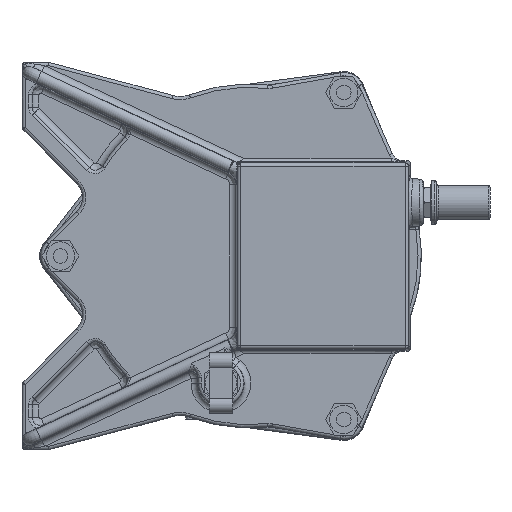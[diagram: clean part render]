
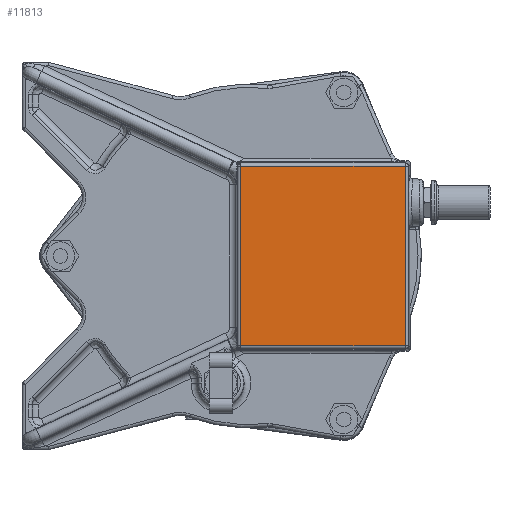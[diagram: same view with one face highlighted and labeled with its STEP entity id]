
A CAD part, front view. The second image highlights one B-rep face of the part: STEP entity #11813.
In plain terms, the highlighted planar face has unit normal (0, -1, 0).
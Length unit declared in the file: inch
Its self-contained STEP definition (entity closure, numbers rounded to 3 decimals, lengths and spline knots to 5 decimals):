
#431=DIRECTION('',(1.,0.,0.));
#432=VECTOR('',#431,3.07787);
#433=CARTESIAN_POINT('',(-0.35044,0.,2.00294));
#434=LINE('',#433,#432);
#3540=DIRECTION('',(0.,0.,-1.));
#3541=VECTOR('',#3540,3.35787);
#3542=CARTESIAN_POINT('',(-0.35044,0.,2.00294));
#3543=LINE('',#3542,#3541);
#3560=DIRECTION('',(0.,0.,1.));
#3561=VECTOR('',#3560,3.35787);
#3562=CARTESIAN_POINT('',(2.72744,0.,-1.35494));
#3563=LINE('',#3562,#3561);
#3605=DIRECTION('',(1.,0.,0.));
#3606=VECTOR('',#3605,3.07787);
#3607=CARTESIAN_POINT('',(-0.35044,0.,-1.35494));
#3608=LINE('',#3607,#3606);
#4763=CARTESIAN_POINT('',(-0.35044,0.,-1.35494));
#4764=CARTESIAN_POINT('',(2.72744,0.,-1.35494));
#4765=VERTEX_POINT('',#4763);
#4766=VERTEX_POINT('',#4764);
#4941=CARTESIAN_POINT('',(-0.35044,0.,2.00294));
#4942=CARTESIAN_POINT('',(2.72744,0.,2.00294));
#4943=VERTEX_POINT('',#4941);
#4944=VERTEX_POINT('',#4942);
#11800=CARTESIAN_POINT('',(-0.1865,0.,0.324));
#11801=DIRECTION('',(0.,-1.,0.));
#11802=DIRECTION('',(0.,0.,1.));
#11803=AXIS2_PLACEMENT_3D('',#11800,#11801,#11802);
#11804=PLANE('',#11803);
#11805=ORIENTED_EDGE('',*,*,#11782,.F.);
#11806=ORIENTED_EDGE('',*,*,#6069,.T.);
#11808=ORIENTED_EDGE('',*,*,#11807,.F.);
#11810=ORIENTED_EDGE('',*,*,#11809,.F.);
#11811=EDGE_LOOP('',(#11805,#11806,#11808,#11810));
#11812=FACE_OUTER_BOUND('',#11811,.F.);
#11813=ADVANCED_FACE('',(#11812),#11804,.T.);
#6069=EDGE_CURVE('',#4943,#4944,#434,.T.);
#11782=EDGE_CURVE('',#4943,#4765,#3543,.T.);
#11807=EDGE_CURVE('',#4766,#4944,#3563,.T.);
#11809=EDGE_CURVE('',#4765,#4766,#3608,.T.);
